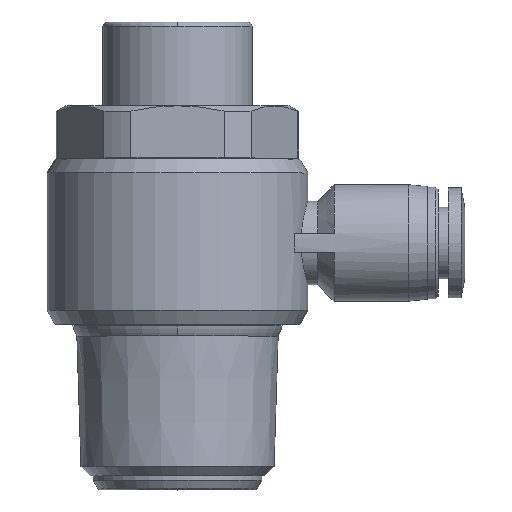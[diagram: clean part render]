
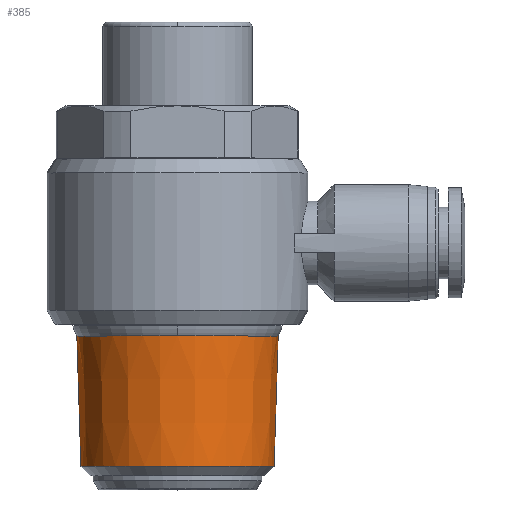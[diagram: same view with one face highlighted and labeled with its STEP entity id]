
A CAD part, top view. The second image highlights one B-rep face of the part: STEP entity #385.
In plain terms, the highlighted conical face has half-angle 1.79 degrees and reference radius 10.582 mm.
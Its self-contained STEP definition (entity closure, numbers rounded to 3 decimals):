
#82 = CARTESIAN_POINT ( 'NONE',  ( 0., 2.532, 0. ) ) ;
#83 = AXIS2_PLACEMENT_3D ( 'NONE', #819, #2087, #3043 ) ;
#94 = LINE ( 'NONE', #1742, #1932 ) ;
#143 = AXIS2_PLACEMENT_3D ( 'NONE', #82, #2023, #3567 ) ;
#198 = CARTESIAN_POINT ( 'NONE',  ( 0., 9.516, 0. ) ) ;
#357 = EDGE_CURVE ( 'NONE', #3769, #4036, #3693, .T. ) ;
#385 = ADVANCED_FACE ( 'NONE', ( #3915 ), #3156, .T. ) ;
#481 = CARTESIAN_POINT ( 'NONE',  ( 10.8, 16.5, 0. ) ) ;
#819 = CARTESIAN_POINT ( 'NONE',  ( 0., 16.5, 0. ) ) ;
#960 = CIRCLE ( 'NONE', #1419, 10.8 ) ;
#995 = DIRECTION ( 'NONE',  ( 0., 1., 0. ) ) ;
#1133 = DIRECTION ( 'NONE',  ( -1., 0., 0. ) ) ;
#1198 = ORIENTED_EDGE ( 'NONE', *, *, #3825, .T. ) ;
#1270 = EDGE_CURVE ( 'NONE', #1826, #3769, #94, .T. ) ;
#1351 = VECTOR ( 'NONE', #3871, 1000. ) ;
#1419 = AXIS2_PLACEMENT_3D ( 'NONE', #2029, #995, #2902 ) ;
#1564 = ORIENTED_EDGE ( 'NONE', *, *, #1829, .T. ) ;
#1570 = CARTESIAN_POINT ( 'NONE',  ( 10.582, 9.516, 0. ) ) ;
#1627 = CARTESIAN_POINT ( 'NONE',  ( 10.363, 2.532, 0. ) ) ;
#1742 = CARTESIAN_POINT ( 'NONE',  ( -10.582, 9.516, 0. ) ) ;
#1826 = VERTEX_POINT ( 'NONE', #3271 ) ;
#1829 = EDGE_CURVE ( 'NONE', #1826, #2575, #3137, .T. ) ;
#1889 = ORIENTED_EDGE ( 'NONE', *, *, #357, .F. ) ;
#1932 = VECTOR ( 'NONE', #3886, 1000. ) ;
#2023 = DIRECTION ( 'NONE',  ( 0., 1., 0. ) ) ;
#2029 = CARTESIAN_POINT ( 'NONE',  ( 0., 16.5, 0. ) ) ;
#2087 = DIRECTION ( 'NONE',  ( 0., 1., 0. ) ) ;
#2112 = CARTESIAN_POINT ( 'NONE',  ( 0., 16.5, 10.8 ) ) ;
#2575 = VERTEX_POINT ( 'NONE', #1627 ) ;
#2579 = LINE ( 'NONE', #1570, #1351 ) ;
#2757 = EDGE_LOOP ( 'NONE', ( #1564, #1198, #2980, #1889, #3739 ) ) ;
#2902 = DIRECTION ( 'NONE',  ( -1., 0., 0. ) ) ;
#2980 = ORIENTED_EDGE ( 'NONE', *, *, #3609, .F. ) ;
#3023 = AXIS2_PLACEMENT_3D ( 'NONE', #198, #3027, #1133 ) ;
#3027 = DIRECTION ( 'NONE',  ( 0., 1., 0. ) ) ;
#3043 = DIRECTION ( 'NONE',  ( -1., 0., 0. ) ) ;
#3137 = CIRCLE ( 'NONE', #143, 10.363 ) ;
#3156 = CONICAL_SURFACE ( 'NONE', #3023, 10.582, 0.031 ) ;
#3271 = CARTESIAN_POINT ( 'NONE',  ( -10.363, 2.532, 0. ) ) ;
#3365 = VERTEX_POINT ( 'NONE', #481 ) ;
#3567 = DIRECTION ( 'NONE',  ( -1., 0., 0. ) ) ;
#3609 = EDGE_CURVE ( 'NONE', #4036, #3365, #960, .T. ) ;
#3693 = CIRCLE ( 'NONE', #83, 10.8 ) ;
#3739 = ORIENTED_EDGE ( 'NONE', *, *, #1270, .F. ) ;
#3769 = VERTEX_POINT ( 'NONE', #3798 ) ;
#3798 = CARTESIAN_POINT ( 'NONE',  ( -10.8, 16.5, 0. ) ) ;
#3825 = EDGE_CURVE ( 'NONE', #2575, #3365, #2579, .T. ) ;
#3871 = DIRECTION ( 'NONE',  ( 0.031, 1., 0. ) ) ;
#3886 = DIRECTION ( 'NONE',  ( -0.031, 1., 0. ) ) ;
#3915 = FACE_OUTER_BOUND ( 'NONE', #2757, .T. ) ;
#4036 = VERTEX_POINT ( 'NONE', #2112 ) ;
